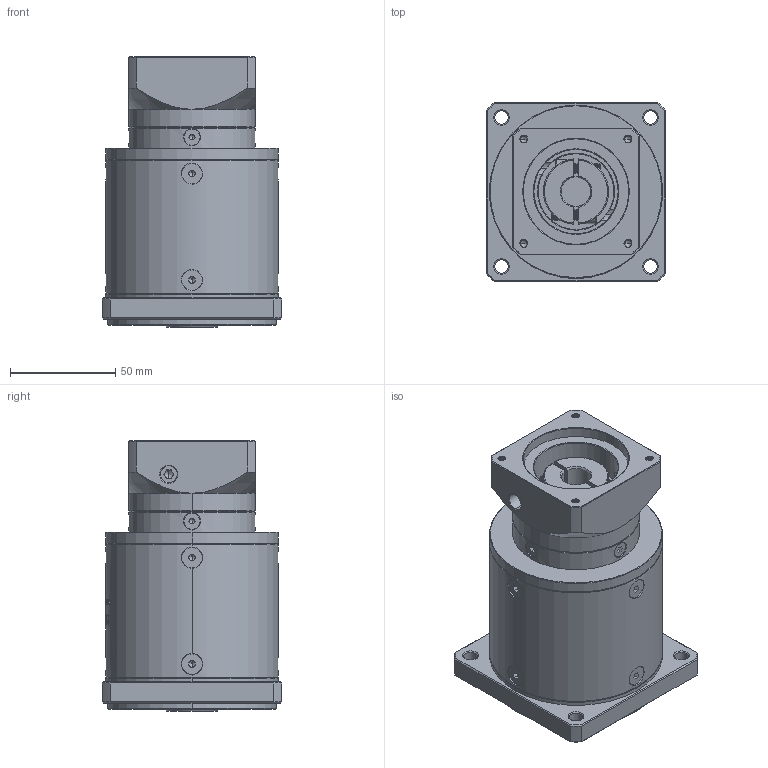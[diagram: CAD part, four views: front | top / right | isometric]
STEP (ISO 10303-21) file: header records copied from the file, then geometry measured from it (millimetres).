
FILE_DESCRIPTION (( 'STEP AP214' ), '1' );
FILE_NAME ('ZF80-K15-L3-14-50-70-M4.step', '2022-09-16T05:39:32', ( '' ), ( 'Microsoft' ), 'SwSTEP 2.0', 'SolidWorks 2016', '' );
FILE_SCHEMA (( 'AUTOMOTIVE_DESIGN' ));
Length unit declared in the file: millimetre
Products named in the file (1): ZF80-K15-L3-14-50-70-M4
Bounding box: 85 x 85 x 128.5 mm (x, y, z)
Volume: 555692.2 mm3; surface area: 70955.6 mm2
Topology: 18 solids, 18 shells, 1960 faces, 5136 edges, 3271 vertices
Faces by surface type: plane 941, cylinder 366, cone 321, bspline 318, torus 14
Entity records: 99572 total; most frequent: CARTESIAN_POINT 32960, ORIENTED_EDGE 10200, DIRECTION 8197, EDGE_CURVE 5100, VERTEX_POINT 3271, VECTOR 2763, LINE 2763, AXIS2_PLACEMENT_3D 2717
